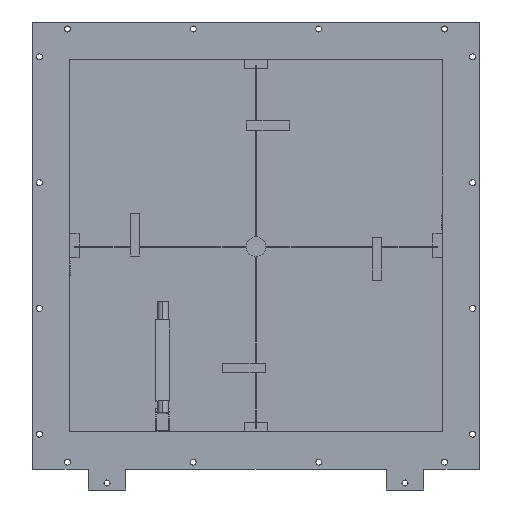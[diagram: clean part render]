
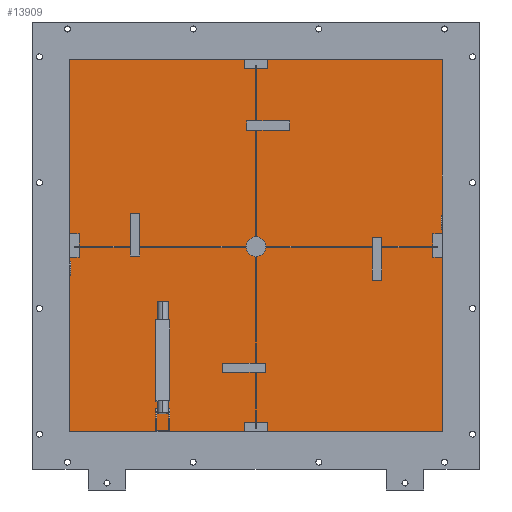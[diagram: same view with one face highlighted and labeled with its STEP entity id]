
A CAD part, front view. The second image highlights one B-rep face of the part: STEP entity #13909.
In plain terms, the highlighted planar face has unit normal (0, -1, 0).
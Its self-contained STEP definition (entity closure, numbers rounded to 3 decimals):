
#2646=DIRECTION('',(0.,0.,1.));
#2647=VECTOR('',#2646,836.);
#2648=CARTESIAN_POINT('',(418.,70.,-420.5));
#2649=LINE('',#2648,#2647);
#2654=CARTESIAN_POINT('',(0.,70.,-2.5));
#2655=DIRECTION('',(0.,1.,0.));
#2656=DIRECTION('',(0.,0.,1.));
#2657=AXIS2_PLACEMENT_3D('',#2654,#2655,#2656);
#2659=CARTESIAN_POINT('',(0.,70.,-2.5));
#2660=DIRECTION('',(0.,1.,0.));
#2661=DIRECTION('',(0.,0.,-1.));
#2662=AXIS2_PLACEMENT_3D('',#2659,#2660,#2661);
#2664=DIRECTION('',(1.,0.,0.));
#2665=VECTOR('',#2664,20.);
#2666=CARTESIAN_POINT('',(-270.,70.,-22.5));
#2667=LINE('',#2666,#2665);
#2668=DIRECTION('',(0.,0.,1.));
#2669=VECTOR('',#2668,92.);
#2670=CARTESIAN_POINT('',(-250.,70.,-22.5));
#2671=LINE('',#2670,#2669);
#2672=DIRECTION('',(-1.,0.,0.));
#2673=VECTOR('',#2672,20.);
#2674=CARTESIAN_POINT('',(-250.,70.,69.5));
#2675=LINE('',#2674,#2673);
#2676=DIRECTION('',(0.,0.,-1.));
#2677=VECTOR('',#2676,92.);
#2678=CARTESIAN_POINT('',(-270.,70.,69.5));
#2679=LINE('',#2678,#2677);
#2680=DIRECTION('',(0.,0.,-1.));
#2681=VECTOR('',#2680,20.);
#2682=CARTESIAN_POINT('',(-20.,70.,267.5));
#2683=LINE('',#2682,#2681);
#2684=DIRECTION('',(1.,0.,0.));
#2685=VECTOR('',#2684,92.);
#2686=CARTESIAN_POINT('',(-20.,70.,247.5));
#2687=LINE('',#2686,#2685);
#2688=DIRECTION('',(0.,0.,1.));
#2689=VECTOR('',#2688,20.);
#2690=CARTESIAN_POINT('',(72.,70.,247.5));
#2691=LINE('',#2690,#2689);
#2692=DIRECTION('',(-1.,0.,0.));
#2693=VECTOR('',#2692,92.);
#2694=CARTESIAN_POINT('',(72.,70.,267.5));
#2695=LINE('',#2694,#2693);
#2696=DIRECTION('',(0.,0.,-1.));
#2697=VECTOR('',#2696,92.);
#2698=CARTESIAN_POINT('',(250.,70.,17.5));
#2699=LINE('',#2698,#2697);
#2700=DIRECTION('',(1.,0.,0.));
#2701=VECTOR('',#2700,20.);
#2702=CARTESIAN_POINT('',(250.,70.,-74.5));
#2703=LINE('',#2702,#2701);
#2704=DIRECTION('',(0.,0.,1.));
#2705=VECTOR('',#2704,92.);
#2706=CARTESIAN_POINT('',(270.,70.,-74.5));
#2707=LINE('',#2706,#2705);
#2708=DIRECTION('',(-1.,0.,0.));
#2709=VECTOR('',#2708,20.);
#2710=CARTESIAN_POINT('',(270.,70.,17.5));
#2711=LINE('',#2710,#2709);
#2712=DIRECTION('',(-1.,0.,0.));
#2713=VECTOR('',#2712,92.);
#2714=CARTESIAN_POINT('',(20.,70.,-252.5));
#2715=LINE('',#2714,#2713);
#2716=DIRECTION('',(0.,0.,-1.));
#2717=VECTOR('',#2716,20.);
#2718=CARTESIAN_POINT('',(-72.,70.,-252.5));
#2719=LINE('',#2718,#2717);
#2720=DIRECTION('',(1.,0.,0.));
#2721=VECTOR('',#2720,92.);
#2722=CARTESIAN_POINT('',(-72.,70.,-272.5));
#2723=LINE('',#2722,#2721);
#2724=DIRECTION('',(0.,0.,1.));
#2725=VECTOR('',#2724,20.);
#2726=CARTESIAN_POINT('',(20.,70.,-272.5));
#2727=LINE('',#2726,#2725);
#2728=DIRECTION('',(1.,0.,0.));
#2729=VECTOR('',#2728,836.);
#2730=CARTESIAN_POINT('',(-418.,70.,-420.5));
#2731=LINE('',#2730,#2729);
#2736=DIRECTION('',(0.,0.,-1.));
#2737=VECTOR('',#2736,836.);
#2738=CARTESIAN_POINT('',(-418.,70.,415.5));
#2739=LINE('',#2738,#2737);
#2744=DIRECTION('',(-1.,0.,0.));
#2745=VECTOR('',#2744,836.);
#2746=CARTESIAN_POINT('',(418.,70.,415.5));
#2747=LINE('',#2746,#2745);
#10239=CARTESIAN_POINT('',(418.,70.,-420.5));
#10240=CARTESIAN_POINT('',(418.,70.,415.5));
#10241=VERTEX_POINT('',#10239);
#10242=VERTEX_POINT('',#10240);
#10243=CARTESIAN_POINT('',(-418.,70.,-420.5));
#10244=VERTEX_POINT('',#10243);
#10245=CARTESIAN_POINT('',(-418.,70.,415.5));
#10246=VERTEX_POINT('',#10245);
#10467=CARTESIAN_POINT('',(0.,70.,18.7));
#10468=CARTESIAN_POINT('',(0.,70.,-23.7));
#10469=VERTEX_POINT('',#10467);
#10470=VERTEX_POINT('',#10468);
#10505=CARTESIAN_POINT('',(-270.,70.,-22.5));
#10506=CARTESIAN_POINT('',(-250.,70.,-22.5));
#10507=VERTEX_POINT('',#10505);
#10508=VERTEX_POINT('',#10506);
#10509=CARTESIAN_POINT('',(-250.,70.,69.5));
#10510=VERTEX_POINT('',#10509);
#10511=CARTESIAN_POINT('',(-270.,70.,69.5));
#10512=VERTEX_POINT('',#10511);
#10513=CARTESIAN_POINT('',(-20.,70.,267.5));
#10514=CARTESIAN_POINT('',(-20.,70.,247.5));
#10515=VERTEX_POINT('',#10513);
#10516=VERTEX_POINT('',#10514);
#10517=CARTESIAN_POINT('',(72.,70.,247.5));
#10518=VERTEX_POINT('',#10517);
#10519=CARTESIAN_POINT('',(72.,70.,267.5));
#10520=VERTEX_POINT('',#10519);
#10521=CARTESIAN_POINT('',(250.,70.,17.5));
#10522=CARTESIAN_POINT('',(250.,70.,-74.5));
#10523=VERTEX_POINT('',#10521);
#10524=VERTEX_POINT('',#10522);
#10525=CARTESIAN_POINT('',(270.,70.,-74.5));
#10526=VERTEX_POINT('',#10525);
#10527=CARTESIAN_POINT('',(270.,70.,17.5));
#10528=VERTEX_POINT('',#10527);
#10529=CARTESIAN_POINT('',(20.,70.,-252.5));
#10530=CARTESIAN_POINT('',(-72.,70.,-252.5));
#10531=VERTEX_POINT('',#10529);
#10532=VERTEX_POINT('',#10530);
#10533=CARTESIAN_POINT('',(-72.,70.,-272.5));
#10534=VERTEX_POINT('',#10533);
#10535=CARTESIAN_POINT('',(20.,70.,-272.5));
#10536=VERTEX_POINT('',#10535);
#13849=CARTESIAN_POINT('',(0.,70.,0.));
#13850=DIRECTION('',(0.,1.,0.));
#13851=DIRECTION('',(1.,0.,0.));
#13852=AXIS2_PLACEMENT_3D('',#13849,#13850,#13851);
#13853=PLANE('',#13852);
#13854=ORIENTED_EDGE('',*,*,#13839,.F.);
#13856=ORIENTED_EDGE('',*,*,#13855,.F.);
#13858=ORIENTED_EDGE('',*,*,#13857,.F.);
#13860=ORIENTED_EDGE('',*,*,#13859,.F.);
#13861=EDGE_LOOP('',(#13854,#13856,#13858,#13860));
#13862=FACE_OUTER_BOUND('',#13861,.F.);
#13864=ORIENTED_EDGE('',*,*,#13863,.F.);
#13866=ORIENTED_EDGE('',*,*,#13865,.F.);
#13867=EDGE_LOOP('',(#13864,#13866));
#13868=FACE_BOUND('',#13867,.F.);
#13870=ORIENTED_EDGE('',*,*,#13869,.T.);
#13872=ORIENTED_EDGE('',*,*,#13871,.T.);
#13874=ORIENTED_EDGE('',*,*,#13873,.T.);
#13876=ORIENTED_EDGE('',*,*,#13875,.T.);
#13877=EDGE_LOOP('',(#13870,#13872,#13874,#13876));
#13878=FACE_BOUND('',#13877,.F.);
#13880=ORIENTED_EDGE('',*,*,#13879,.T.);
#13882=ORIENTED_EDGE('',*,*,#13881,.T.);
#13884=ORIENTED_EDGE('',*,*,#13883,.T.);
#13886=ORIENTED_EDGE('',*,*,#13885,.T.);
#13887=EDGE_LOOP('',(#13880,#13882,#13884,#13886));
#13888=FACE_BOUND('',#13887,.F.);
#13890=ORIENTED_EDGE('',*,*,#13889,.T.);
#13892=ORIENTED_EDGE('',*,*,#13891,.T.);
#13894=ORIENTED_EDGE('',*,*,#13893,.T.);
#13896=ORIENTED_EDGE('',*,*,#13895,.T.);
#13897=EDGE_LOOP('',(#13890,#13892,#13894,#13896));
#13898=FACE_BOUND('',#13897,.F.);
#13900=ORIENTED_EDGE('',*,*,#13899,.T.);
#13902=ORIENTED_EDGE('',*,*,#13901,.T.);
#13904=ORIENTED_EDGE('',*,*,#13903,.T.);
#13906=ORIENTED_EDGE('',*,*,#13905,.T.);
#13907=EDGE_LOOP('',(#13900,#13902,#13904,#13906));
#13908=FACE_BOUND('',#13907,.F.);
#2658=CIRCLE('',#2657,21.2);
#2663=CIRCLE('',#2662,21.2);
#13839=EDGE_CURVE('',#10241,#10242,#2649,.T.);
#13855=EDGE_CURVE('',#10244,#10241,#2731,.T.);
#13857=EDGE_CURVE('',#10246,#10244,#2739,.T.);
#13859=EDGE_CURVE('',#10242,#10246,#2747,.T.);
#13863=EDGE_CURVE('',#10469,#10470,#2658,.T.);
#13865=EDGE_CURVE('',#10470,#10469,#2663,.T.);
#13869=EDGE_CURVE('',#10507,#10508,#2667,.T.);
#13871=EDGE_CURVE('',#10508,#10510,#2671,.T.);
#13873=EDGE_CURVE('',#10510,#10512,#2675,.T.);
#13875=EDGE_CURVE('',#10512,#10507,#2679,.T.);
#13879=EDGE_CURVE('',#10515,#10516,#2683,.T.);
#13881=EDGE_CURVE('',#10516,#10518,#2687,.T.);
#13883=EDGE_CURVE('',#10518,#10520,#2691,.T.);
#13885=EDGE_CURVE('',#10520,#10515,#2695,.T.);
#13889=EDGE_CURVE('',#10523,#10524,#2699,.T.);
#13891=EDGE_CURVE('',#10524,#10526,#2703,.T.);
#13893=EDGE_CURVE('',#10526,#10528,#2707,.T.);
#13895=EDGE_CURVE('',#10528,#10523,#2711,.T.);
#13899=EDGE_CURVE('',#10531,#10532,#2715,.T.);
#13901=EDGE_CURVE('',#10532,#10534,#2719,.T.);
#13903=EDGE_CURVE('',#10534,#10536,#2723,.T.);
#13905=EDGE_CURVE('',#10536,#10531,#2727,.T.);
#13909=ADVANCED_FACE('',(#13862,#13868,#13878,#13888,#13898,#13908),#13853,.F.);
